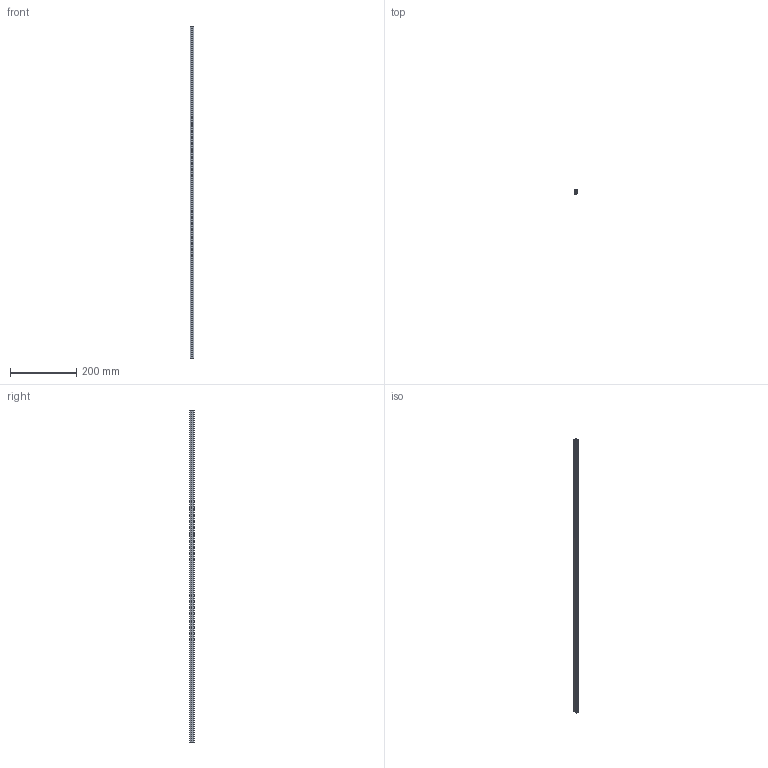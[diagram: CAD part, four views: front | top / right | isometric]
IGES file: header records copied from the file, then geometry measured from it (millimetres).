
Start section: SolidWorks IGES file using analytic representation for surfaces
Bounding box: 11.79 x 14.05 x 1000 mm (x, y, z)
Surface area: 98302.7 mm2 (no closed solid volume)
Topology: 0 solids, 0 shells, 42 faces, 430 edges, 430 vertices
Faces by surface type: revolution 23, bspline 19
